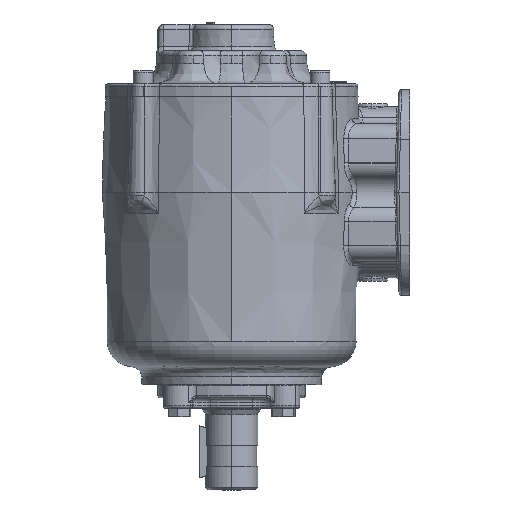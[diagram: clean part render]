
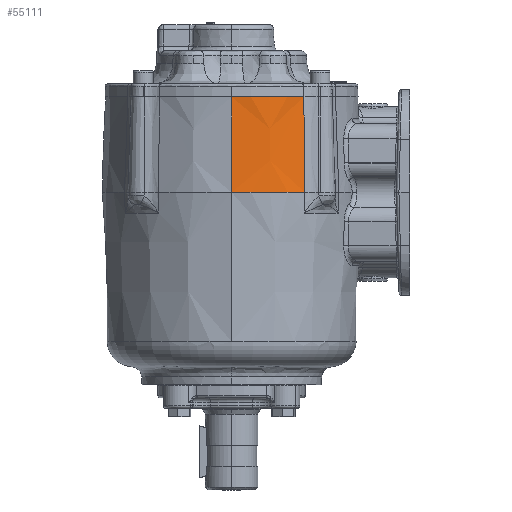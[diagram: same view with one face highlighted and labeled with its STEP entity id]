
A CAD part, left-side view. The second image highlights one B-rep face of the part: STEP entity #55111.
In plain terms, the highlighted conical face has half-angle 2 degrees and reference radius 78.232 mm.
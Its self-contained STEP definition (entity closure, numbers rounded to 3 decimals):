
#4135 = EDGE_CURVE ( 'NONE', #117896, #21907, #22668, .T. ) ;
#5074 = FACE_OUTER_BOUND ( 'NONE', #125632, .T. ) ;
#11028 = ORIENTED_EDGE ( 'NONE', *, *, #27389, .F. ) ;
#16769 = CONICAL_SURFACE ( 'NONE', #77068, 78.232, 0.035 ) ;
#17152 = CARTESIAN_POINT ( 'NONE',  ( -31.75, 84.572, 0. ) ) ;
#21907 = VERTEX_POINT ( 'NONE', #62586 ) ;
#22668 = LINE ( 'NONE', #77873, #96278 ) ;
#27389 = EDGE_CURVE ( 'NONE', #112115, #72144, #64309, .T. ) ;
#29559 = CARTESIAN_POINT ( 'NONE',  ( -96.365, 40.468, 0. ) ) ;
#38910 = DIRECTION ( 'NONE',  ( -0.468, -0.884, 0. ) ) ;
#48963 = ORIENTED_EDGE ( 'NONE', *, *, #105647, .F. ) ;
#49978 = ORIENTED_EDGE ( 'NONE', *, *, #132244, .F. ) ;
#50487 = DIRECTION ( 'NONE',  ( 0., 0., 1. ) ) ;
#51151 = DIRECTION ( 'NONE',  ( 0., 0., -1. ) ) ;
#55111 = ADVANCED_FACE ( 'NONE', ( #5074 ), #16769, .T. ) ;
#58737 = CARTESIAN_POINT ( 'NONE',  ( -95.021, 40.876, 38.346 ) ) ;
#62586 = CARTESIAN_POINT ( 'NONE',  ( -109.982, 84.572, 0. ) ) ;
#62963 = ORIENTED_EDGE ( 'NONE', *, *, #4135, .T. ) ;
#64309 = B_SPLINE_CURVE_WITH_KNOTS ( 'NONE', 3,
 ( #82163, #58737, #103327, #114658 ),
 .UNSPECIFIED., .F., .F.,
 ( 4, 4 ),
 ( 0., 1. ),
 .UNSPECIFIED. ) ;
#72144 = VERTEX_POINT ( 'NONE', #29559 ) ;
#77068 = AXIS2_PLACEMENT_3D ( 'NONE', #17152, #51151, #97255 ) ;
#77873 = CARTESIAN_POINT ( 'NONE',  ( -109.982, 84.572, 0. ) ) ;
#82108 = AXIS2_PLACEMENT_3D ( 'NONE', #84502, #50487, #107898 ) ;
#82163 = CARTESIAN_POINT ( 'NONE',  ( -94.345, 41.076, 57.518 ) ) ;
#84502 = CARTESIAN_POINT ( 'NONE',  ( -31.75, 84.572, 57.518 ) ) ;
#94858 = CARTESIAN_POINT ( 'NONE',  ( -31.75, 84.572, 0. ) ) ;
#96278 = VECTOR ( 'NONE', #145843, 1000. ) ;
#97255 = DIRECTION ( 'NONE',  ( -1., 0., 0. ) ) ;
#103327 = CARTESIAN_POINT ( 'NONE',  ( -95.695, 40.673, 19.173 ) ) ;
#105647 = EDGE_CURVE ( 'NONE', #117896, #112115, #123061, .T. ) ;
#107898 = DIRECTION ( 'NONE',  ( -1., 0., 0. ) ) ;
#112115 = VERTEX_POINT ( 'NONE', #125436 ) ;
#112995 = CIRCLE ( 'NONE', #139531, 78.232 ) ;
#114658 = CARTESIAN_POINT ( 'NONE',  ( -96.365, 40.468, 0. ) ) ;
#117520 = DIRECTION ( 'NONE',  ( 0., 0., -1. ) ) ;
#117896 = VERTEX_POINT ( 'NONE', #125834 ) ;
#123061 = CIRCLE ( 'NONE', #82108, 76.223 ) ;
#125436 = CARTESIAN_POINT ( 'NONE',  ( -94.345, 41.076, 57.518 ) ) ;
#125632 = EDGE_LOOP ( 'NONE', ( #48963, #62963, #49978, #11028 ) ) ;
#125834 = CARTESIAN_POINT ( 'NONE',  ( -107.973, 84.572, 57.518 ) ) ;
#132244 = EDGE_CURVE ( 'NONE', #72144, #21907, #112995, .T. ) ;
#139531 = AXIS2_PLACEMENT_3D ( 'NONE', #94858, #117520, #38910 ) ;
#145843 = DIRECTION ( 'NONE',  ( -0.035, 0., -0.999 ) ) ;
